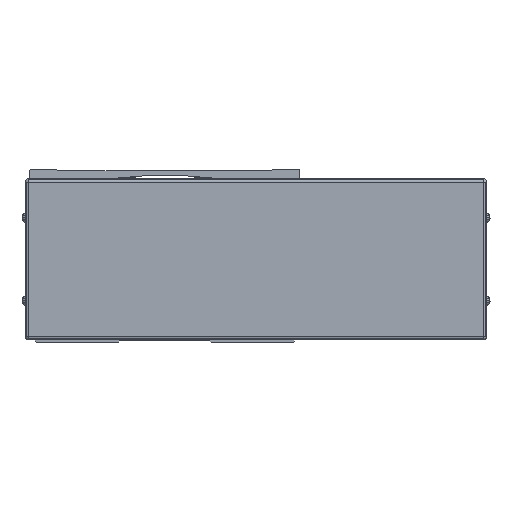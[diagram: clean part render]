
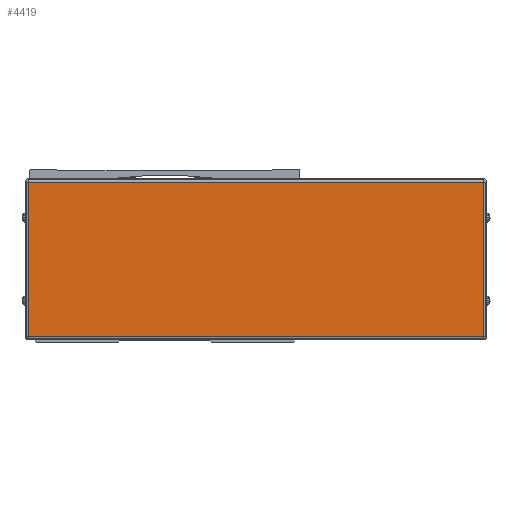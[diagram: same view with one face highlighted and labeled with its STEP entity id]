
A CAD part, front view. The second image highlights one B-rep face of the part: STEP entity #4419.
In plain terms, the highlighted planar face has unit normal (0, -1, 0).
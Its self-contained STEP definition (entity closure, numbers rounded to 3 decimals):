
#4419=ADVANCED_FACE('',(#9649),#9650,.T.);
#9649=FACE_OUTER_BOUND('',#17402,.T.);
#9650=PLANE('',#17403);
#17402=EDGE_LOOP('',(#30996,#30997,#30998,#30999));
#17403=AXIS2_PLACEMENT_3D('',#31000,#31001,#31002);
#30996=ORIENTED_EDGE('',*,*,#43935,.F.);
#30997=ORIENTED_EDGE('',*,*,#43482,.F.);
#30998=ORIENTED_EDGE('',*,*,#43936,.F.);
#30999=ORIENTED_EDGE('',*,*,#43937,.F.);
#31000=CARTESIAN_POINT('',(-545.,127.222,-2.));
#31001=DIRECTION('',(0.,-1.0,0.));
#31002=DIRECTION('',(1.0,0.,0.));
#43482=EDGE_CURVE('',#48469,#49264,#53533,.T.);
#43935=EDGE_CURVE('',#49264,#54104,#54105,.T.);
#43936=EDGE_CURVE('',#50810,#48469,#54106,.T.);
#43937=EDGE_CURVE('',#54104,#50810,#54107,.T.);
#48469=VERTEX_POINT('',#60407);
#49264=VERTEX_POINT('',#61590);
#50810=VERTEX_POINT('',#63998);
#53533=LINE('',#68076,#68077);
#54104=VERTEX_POINT('',#68848);
#54105=LINE('',#68849,#68850);
#54106=LINE('',#68851,#68852);
#54107=LINE('',#68853,#68854);
#60407=CARTESIAN_POINT('',(-682.1,127.222,-48.5));
#61590=CARTESIAN_POINT('',(-682.1,127.222,44.5));
#63998=CARTESIAN_POINT('',(-407.9,127.222,-48.5));
#68076=CARTESIAN_POINT('',(-682.1,127.222,-2.));
#68077=VECTOR('',#77602,10.0);
#68848=CARTESIAN_POINT('',(-407.9,127.222,44.5));
#68849=CARTESIAN_POINT('',(-545.,127.222,44.5));
#68850=VECTOR('',#78120,10.0);
#68851=CARTESIAN_POINT('',(-545.,127.222,-48.5));
#68852=VECTOR('',#78121,10.0);
#68853=CARTESIAN_POINT('',(-407.9,127.222,-2.));
#68854=VECTOR('',#78122,10.0);
#77602=DIRECTION('',(0.,0.,1.0));
#78120=DIRECTION('',(1.0,0.,0.));
#78121=DIRECTION('',(-1.0,0.,0.));
#78122=DIRECTION('',(0.,0.,-1.0));
